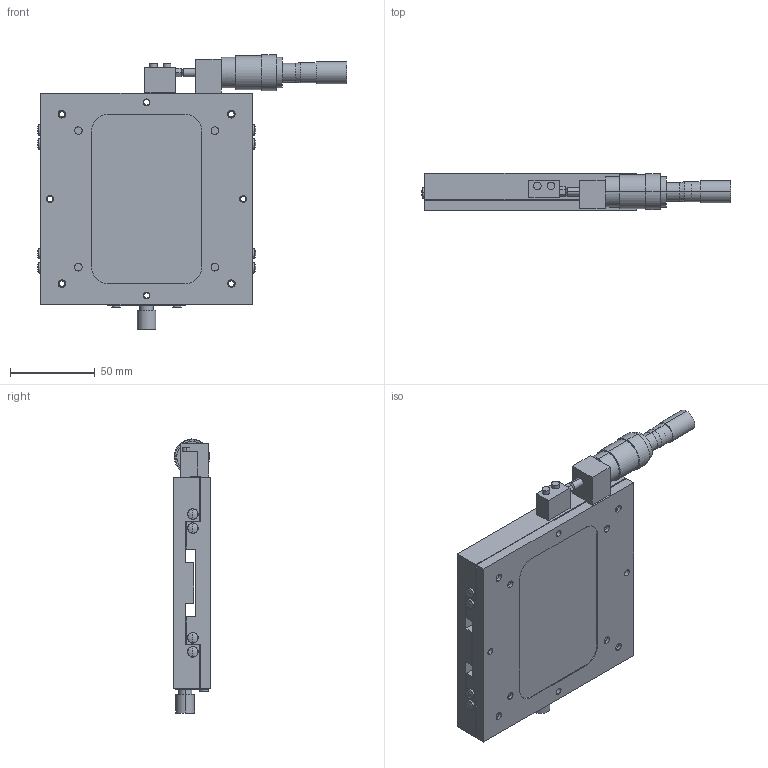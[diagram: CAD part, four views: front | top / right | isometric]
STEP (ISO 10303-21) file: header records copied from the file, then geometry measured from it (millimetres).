
FILE_DESCRIPTION (( 'STEP AP203' ), '1' );
FILE_NAME ('LS-147-S2.STEP', '2008-01-18T04:09:33', ( '' ), ( '' ), 'SwSTEP 2.0', 'SolidWorks 2007', '' );
FILE_SCHEMA (( 'CONFIG_CONTROL_DESIGN' ));
Length unit declared in the file: millimetre
Products named in the file (3): LS-147-S2; LS-147-S2-2_蹬怮椔; LS-147-S2-1_蹬怮椔
Assembly tree (2 placements, depth 2):
  LS-147-S2
    LS-147-S2-2_蹬怮椔
    LS-147-S2-1_蹬怮椔
Bounding box: 182.4 x 22 x 161.8 mm (x, y, z)
Volume: 337386.4 mm3; surface area: 95838 mm2
Topology: 3 solids, 3 shells, 297 faces, 709 edges, 467 vertices
Faces by surface type: cylinder 153, plane 102, cone 22, sphere 18, bspline 2
Entity records: 9592 total; most frequent: CARTESIAN_POINT 1888, DIRECTION 1671, ORIENTED_EDGE 1418, EDGE_CURVE 709, AXIS2_PLACEMENT_3D 666, VERTEX_POINT 467, EDGE_LOOP 416, CIRCLE 366
